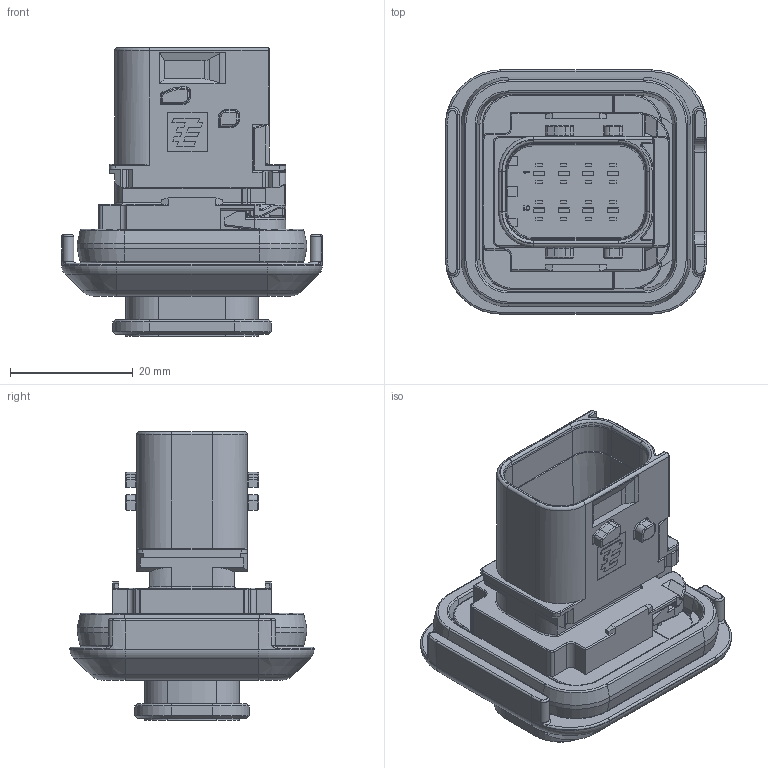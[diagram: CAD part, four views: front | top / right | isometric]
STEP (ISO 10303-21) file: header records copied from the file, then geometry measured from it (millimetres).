
FILE_DESCRIPTION((''),'2;1');
FILE_NAME('C-1-1564416-1','2010-12-20T',('workeradm'),('Tyco Electronics Ltd.'),'PRO/ENGINEER BY PARAMETRIC TECHNOLOGY CORPORATION, 2009300','PRO/ENGINEER BY PARAMETRIC TECHNOLOGY CORPORATION, 2009300','');
FILE_SCHEMA(('AUTOMOTIVE_DESIGN { 1 0 10303 214 1 1 1 1 }'));
Length unit declared in the file: millimetre
Products named in the file (1): C-1-1564416-1
Bounding box: 42.5 x 39.8 x 47.05 mm (x, y, z)
Volume: 22901.8 mm3; surface area: 13266.1 mm2
Topology: 1 solids, 1 shells, 1220 faces, 3044 edges, 1866 vertices
Faces by surface type: plane 563, cylinder 392, torus 164, cone 48, bspline 35, sphere 18
Entity records: 46769 total; most frequent: CARTESIAN_POINT 17400, DIRECTION 6121, ORIENTED_EDGE 6088, EDGE_CURVE 3044, AXIS2_PLACEMENT_3D 2128, VERTEX_POINT 1866, VECTOR 1865, LINE 1865
